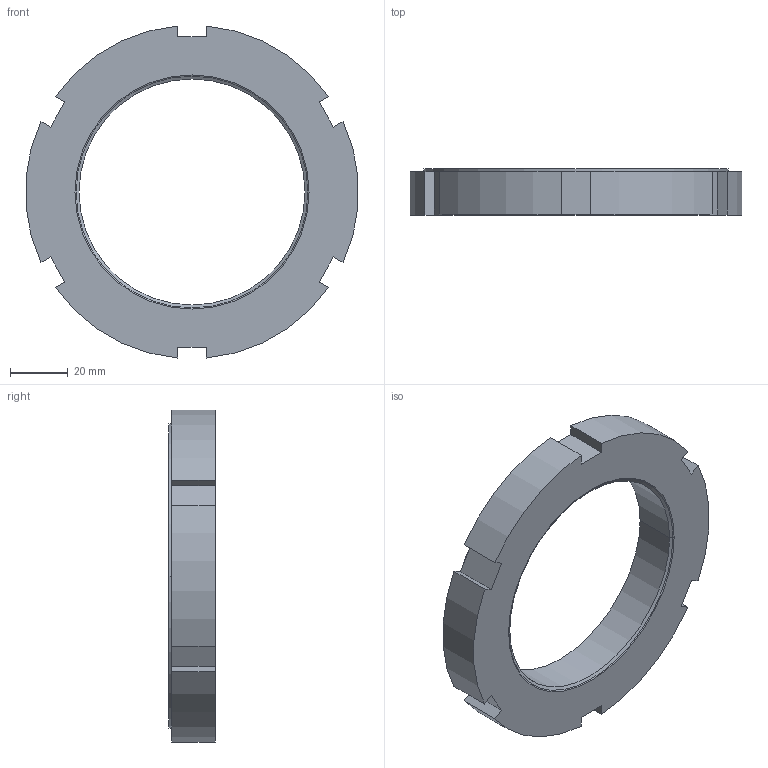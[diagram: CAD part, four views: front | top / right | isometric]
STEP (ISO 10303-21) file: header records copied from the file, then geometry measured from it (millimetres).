
FILE_DESCRIPTION((''),'2;1');
FILE_NAME('FN-802','2011-08-19T',('chad.steele'),(''),'PRO/ENGINEER BY PARAMETRIC TECHNOLOGY CORPORATION, 2010040','PRO/ENGINEER BY PARAMETRIC TECHNOLOGY CORPORATION, 2010040','');
FILE_SCHEMA(('CONFIG_CONTROL_DESIGN'));
Length unit declared in the file: millimetre
Products named in the file (1): FN-802
Bounding box: 114.56 x 16 x 114.56 mm (x, y, z)
Volume: 84199 mm3; surface area: 24719.4 mm2
Topology: 1 solids, 2 shells, 37 faces, 98 edges, 64 vertices
Faces by surface type: plane 21, cylinder 12, cone 4
Entity records: 1196 total; most frequent: DIRECTION 202, CARTESIAN_POINT 200, ORIENTED_EDGE 192, EDGE_CURVE 98, VECTOR 70, LINE 70, AXIS2_PLACEMENT_3D 66, VERTEX_POINT 64
